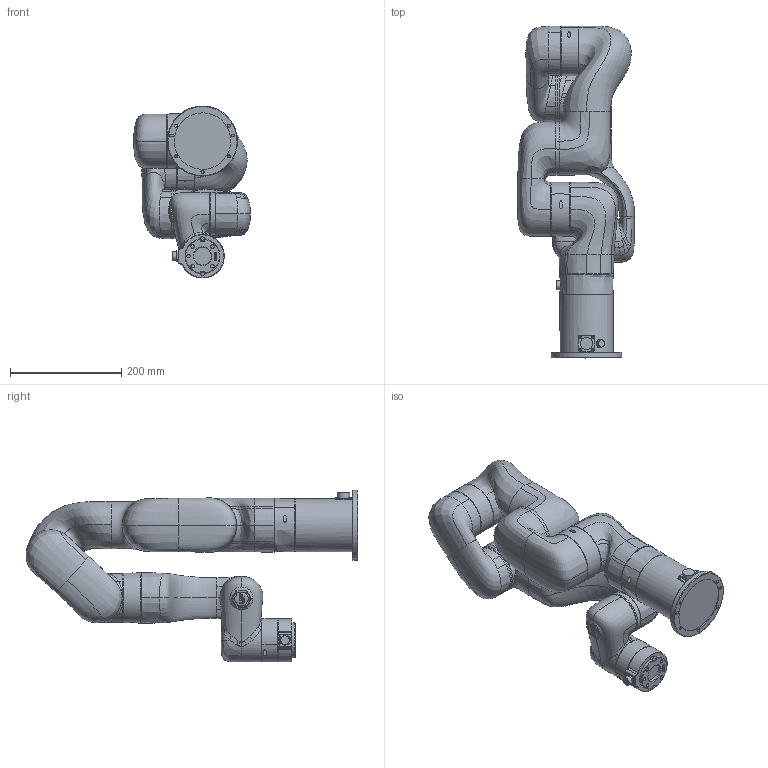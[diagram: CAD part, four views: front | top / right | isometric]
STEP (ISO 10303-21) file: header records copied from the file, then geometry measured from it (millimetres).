
FILE_DESCRIPTION (( 'STEP AP203' ), '1' );
FILE_NAME ('1305Xarm6-M-1.STEP', '2024-07-11T11:20:19', ( '' ), ( '' ), 'SwSTEP 2.0', 'SolidWorks 2016', '' );
FILE_SCHEMA (( 'CONFIG_CONTROL_DESIGN' ));
Length unit declared in the file: millimetre
Products named in the file (8): 1305Xarm6-P07; 1305Xarm6-P05; 1305Xarm6-P04; 1305Xarm6-P06; 1305Xarm6-P02; 1305Xarm6-P03; 1305Xarm6-M-1; 1305Xarm6-P01-95
Assembly tree (7 placements, depth 2):
  1305Xarm6-M-1
    1305Xarm6-P01-95
    1305Xarm6-P02
    1305Xarm6-P03
    1305Xarm6-P04
    1305Xarm6-P05
    1305Xarm6-P06
    1305Xarm6-P07
Bounding box: 209.93 x 596.09 x 308.8 mm (x, y, z)
Volume: 8714532.7 mm3; surface area: 605835.8 mm2
Topology: 14 solids, 15 shells, 609 faces, 1453 edges, 947 vertices
Faces by surface type: bspline 271, plane 181, cylinder 107, cone 46, torus 4
Full cylindrical faces by diameter (mm): 2 x12, 5 x5, 5.5 x5, 5.9 x2, 6 x9, 6.5 x6, 9 x5, 13 x1, 13.25 x1, 15 x1, 15.68 x1, 22 x1, 28.215 x1, 29.373 x1, 30.609 x1, 30.659 x1, 31.5 x1, 37 x1, 37.147 x1, 38.182 x1, 38.415 x1, 39.212 x1, 43.79 x1, 47.441 x1, 48.635 x1, 48.687 x1, 72 x1, 74 x1, 77 x1, 95.4 x1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
Entity records: 153577 total; most frequent: CARTESIAN_POINT 141209, ORIENTED_EDGE 2720, DIRECTION 1503, EDGE_CURVE 1360, VERTEX_POINT 933, B_SPLINE_CURVE_WITH_KNOTS 802, EDGE_LOOP 773, FACE_OUTER_BOUND 680
